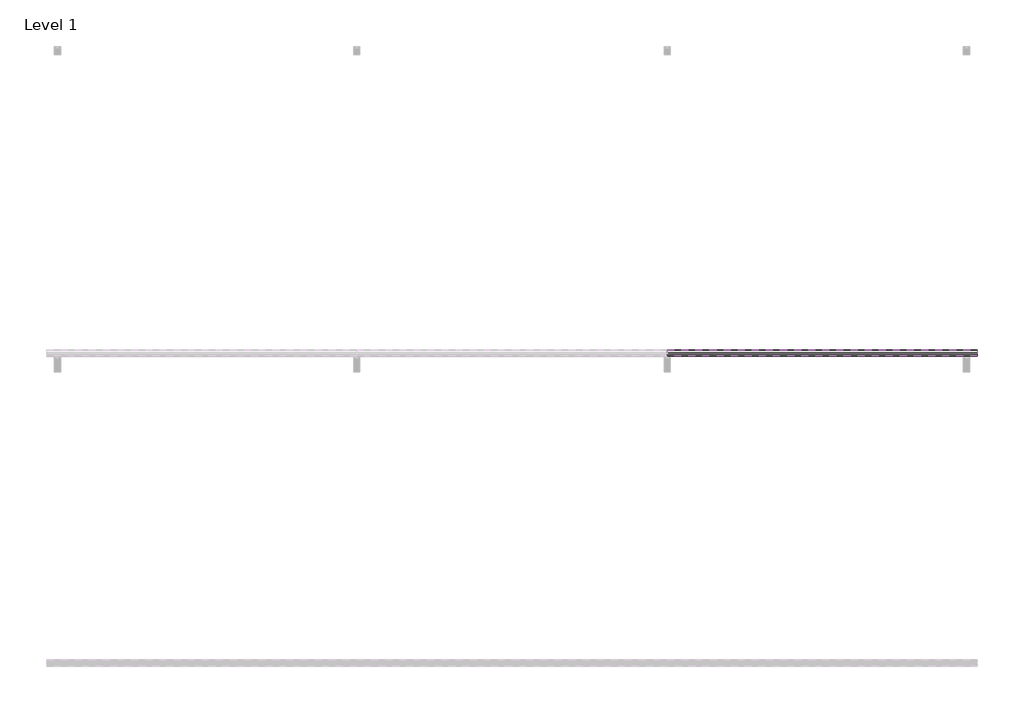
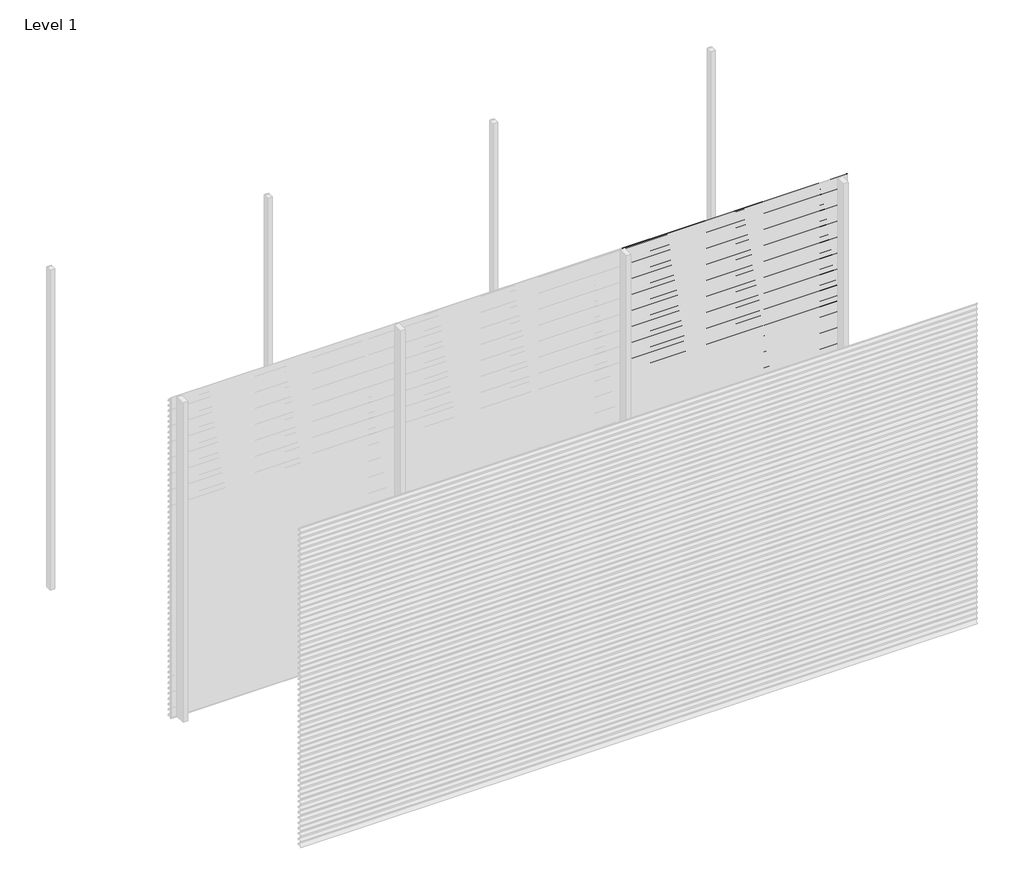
# One storey, part 16 of 38: 66 proxies.
"""IFC4 building model written with IfcOpenShell, lengths in millimetres."""

import ifcopenshell
import ifcopenshell.guid

model = None  # the IFC model being written
_history = None  # IfcOwnerHistory: only IFC2X3 demands one
_inside = {}  # id of a spatial element -> (the spatial element, [elements in it])
_under = {}  # id of a project, library or spatial element -> (it, [spatial elements below it])
_declared = {}  # id of a project -> (the project, [libraries it declares])
_typed = {}  # id of a type object -> (the type object, [elements of that type])
_made_of = {}  # id of a material, layer set ... -> (it, [elements and type objects made of it])


def new_model(schema):
    """Start an empty IFC model of exactly this schema.

    Asked for "IFC4X3", IfcOpenShell would pick the latest addendum, in which some entities
    have other attributes; the version numbers below select the first issue.
    IFC2X3 requires an IfcOwnerHistory on every rooted entity: one is made here for all.
    """
    global model, _history
    if schema == "IFC4X3":
        model = ifcopenshell.file(schema_version=(4, 3, 0, 0))
    else:
        model = ifcopenshell.file(schema=schema)
    _inside.clear()
    _under.clear()
    _declared.clear()
    _typed.clear()
    _made_of.clear()
    _history = None
    if model.schema == "IFC2X3":
        org = make("IfcOrganization", Name="unknown")
        user = make(
            "IfcPersonAndOrganization",
            ThePerson=make("IfcPerson", FamilyName="unknown"),
            TheOrganization=org,
        )
        app = make(
            "IfcApplication",
            ApplicationDeveloper=org,
            Version="unknown",
            ApplicationFullName="unknown",
            ApplicationIdentifier="unknown",
        )
        _history = make(
            "IfcOwnerHistory",
            OwningUser=user,
            OwningApplication=app,
            ChangeAction="ADDED",
            CreationDate=0,
        )
    return model


def make(cls, **values):
    """One entity of the class cls with the attributes given. An attribute that is None is left unset."""
    return model.create_entity(
        cls, **{name: value for name, value in values.items() if value is not None}
    )


def rooted(cls, **values):
    """An entity with a GlobalId (a new one), such as an element, a storey or a relation."""
    return make(cls, GlobalId=ifcopenshell.guid.new(), OwnerHistory=_history, **values)


def si_unit(unit_type, name, prefix=None):
    """IfcSIUnit, for example si_unit("LENGTHUNIT", "METRE", prefix="MILLI")."""
    return make("IfcSIUnit", UnitType=unit_type, Prefix=prefix, Name=name)


def assignment(units):
    """IfcUnitAssignment: the units of a project."""
    return None if units is None else make("IfcUnitAssignment", Units=units)


def point(xyz):
    """IfcCartesianPoint."""
    return None if xyz is None else make("IfcCartesianPoint", Coordinates=xyz)


def direction(xyz):
    """IfcDirection."""
    return None if xyz is None else make("IfcDirection", DirectionRatios=xyz)


def frame(location, z_axis=None, x_axis=None):
    """IfcAxis2Placement3D, a coordinate frame: its origin and axes. An axis left out is left unset."""
    return make(
        "IfcAxis2Placement3D",
        Location=point(location),
        Axis=direction(z_axis),
        RefDirection=direction(x_axis),
    )


def origin():
    """The frame at (0, 0, 0) with its axes left unset."""
    return frame((0.0, 0.0, 0.0))


def place(relative_to, where):
    """IfcLocalPlacement: puts the frame where relative to a parent placement (None: the world)."""
    return make(
        "IfcLocalPlacement", PlacementRelTo=relative_to, RelativePlacement=where
    )


def context(
    kind, dimensions, precision=None, world=None, true_north=None, identifier=None
):
    """IfcGeometricRepresentationContext, for example the 3D "Model" context."""
    return make(
        "IfcGeometricRepresentationContext",
        ContextIdentifier=identifier,
        ContextType=kind,
        CoordinateSpaceDimension=dimensions,
        Precision=precision,
        WorldCoordinateSystem=world,
        TrueNorth=true_north,
    )


def project(units=None, contexts=None):
    """IfcProject with its units and contexts."""
    return rooted(
        "IfcProject",
        Name="project",
        RepresentationContexts=contexts,
        UnitsInContext=assignment(units),
    )


def spatial(cls, under=None, at=None, **own):
    """A site, building, storey or space (cls), placed at a placement, below another one or the project."""
    s = rooted(cls, ObjectPlacement=at, **own)
    if under is not None:
        _under.setdefault(under.id(), (under, []))[1].append(s)
    return s


def polyline(points):
    """IfcPolyline through the points."""
    return make("IfcPolyline", Points=[point(p) for p in points])


def outline(outer, holes=None, kind="AREA"):
    """IfcArbitraryClosedProfileDef: a profile drawn as a closed curve; with holes, ...WithVoids."""
    if holes is None:
        return make("IfcArbitraryClosedProfileDef", ProfileType=kind, OuterCurve=outer)
    return make(
        "IfcArbitraryProfileDefWithVoids",
        ProfileType=kind,
        OuterCurve=outer,
        InnerCurves=holes,
    )


def extrude(swept, where, along, depth):
    """IfcExtrudedAreaSolid: the profile swept, set in the frame where, extruded along a direction by depth."""
    return make(
        "IfcExtrudedAreaSolid",
        SweptArea=swept,
        Position=where,
        ExtrudedDirection=direction(along),
        Depth=depth,
    )


def shape(context_of_items, identifier, shape_type, items):
    """IfcShapeRepresentation: the items that make up one representation, for example the "Body"."""
    return make(
        "IfcShapeRepresentation",
        ContextOfItems=context_of_items,
        RepresentationIdentifier=identifier,
        RepresentationType=shape_type,
        Items=items,
    )


def made_of(thing, what):
    """Note that an element or type object is made of a material, layer set ...; save() writes the relation."""
    if what is not None:
        _made_of.setdefault(what.id(), (what, []))[1].append(thing)
    return thing


def element(
    cls,
    number,
    at=None,
    inside=None,
    cuts=None,
    type_object=None,
    material=None,
    context=None,
    identifier="Body",
    shape_type=None,
    held_by="IfcProductDefinitionShape",
    body=None,
    shapes=None,
    **own,
):
    """One element of the class cls, such as IfcWall. Its Tag is "e" and its number.

    at: its placement. inside: the storey or other place that contains it. cuts: it is an
    opening in that element (IfcRelVoidsElement). A single representation is given by context,
    identifier, shape_type and body (its items); several are given by shapes. held_by: the class
    of the entity that holds the representations. save() writes the other relations.
    """
    e = rooted(cls, Tag="e%d" % number, ObjectPlacement=at, **own)
    if body is not None:
        shapes = [shape(context, identifier, shape_type, body)]
    if shapes is not None:
        e.Representation = make(held_by, Representations=shapes)
    if inside is not None:
        _inside.setdefault(inside.id(), (inside, []))[1].append(e)
    if cuts is not None:
        rooted(
            "IfcRelVoidsElement", RelatingBuildingElement=cuts, RelatedOpeningElement=e
        )
    if type_object is not None:
        _typed.setdefault(type_object.id(), (type_object, []))[1].append(e)
    return made_of(e, material)


def aggregate(whole, parts):
    """IfcRelAggregates: a whole, such as a stair, and the parts it consists of."""
    return rooted("IfcRelAggregates", RelatingObject=whole, RelatedObjects=parts)


def save(model, path):
    """Write the relations noted so far, then the file.

    IfcRelAggregates (storeys below a building ...), IfcRelContainedInSpatialStructure (elements
    in a storey), IfcRelDefinesByType, IfcRelAssociatesMaterial and IfcRelDeclares: one each for
    every whole, place, type object, material and project.
    """
    for whole, parts in _under.values():
        aggregate(whole, parts)
    for where, things in _inside.values():
        rooted(
            "IfcRelContainedInSpatialStructure",
            RelatedElements=things,
            RelatingStructure=where,
        )
    for kind, things in _typed.values():
        rooted("IfcRelDefinesByType", RelatedObjects=things, RelatingType=kind)
    for what, things in _made_of.values():
        rooted("IfcRelAssociatesMaterial", RelatedObjects=things, RelatingMaterial=what)
    for by, libraries in _declared.values():
        rooted("IfcRelDeclares", RelatingContext=by, RelatedDefinitions=libraries)
    model.write(path)


model = new_model("IFC4")

# Units and contexts
model_context = context("Model", 3, world=origin())
ifc_project = project(units=[si_unit("LENGTHUNIT", "METRE", prefix="MILLI")], contexts=[model_context])

# Site, building, storey
site = spatial("IfcSite", under=ifc_project)
building = spatial("IfcBuilding", under=site)
storey = spatial("IfcBuildingStorey", under=building, Name="Level 1", Elevation=0.0)

# Proxies
placement = place(None, origin())
element("IfcBuildingElementProxy", 1, Name="Wall Sweeps", at=placement, inside=storey, context=model_context, shape_type="SweptSolid", body=[
    extrude(outline(polyline([(-35996.75, 1050.0), (-35996.75, 1039.19656), (-35974.6057113, 1026.4115489), (-35957.0, 1009.0472005), (-35957.0, 994.0472005), (-35958.3, 995.0268207), (-35958.3, 1008.5034593), (-35969.4914725, 1019.541504), (-35994.2797376, 990.0), (-35995.9767671, 990.0), (-35970.4200307, 1020.4573323), (-35975.3999793, 1025.3690091), (-35998.0, 1038.4171371), (-35998.0, 1050.0), (-35996.75, 1050.0)])), frame((2000.0, 0.0, 0.0), z_axis=(1.0, 0.0, 0.0), x_axis=(0.0, 1.0, 0.0)), (0.0, 0.0, 1.0), 2000.0),
])
element("IfcBuildingElementProxy", 2, Name="Wall Sweeps", at=placement, inside=storey, context=model_context, shape_type="SweptSolid", body=[
    extrude(outline(polyline([(-35996.75, 1000.0), (-35996.75, 989.19656), (-35974.6057113, 976.4115489), (-35957.0, 959.0472005), (-35957.0, 944.0472005), (-35958.3, 945.0268207), (-35958.3, 958.5034593), (-35969.4914725, 969.541504), (-35994.2797376, 940.0), (-35995.9767671, 940.0), (-35970.4200307, 970.4573323), (-35975.3999793, 975.3690091), (-35998.0, 988.4171371), (-35998.0, 1000.0), (-35996.75, 1000.0)])), frame((2000.0, 0.0, 0.0), z_axis=(1.0, 0.0, 0.0), x_axis=(0.0, 1.0, 0.0)), (0.0, 0.0, 1.0), 2000.0),
])
element("IfcBuildingElementProxy", 3, Name="Wall Sweeps", at=placement, inside=storey, context=model_context, shape_type="SweptSolid", body=[
    extrude(outline(polyline([(-35996.75, 950.0), (-35996.75, 939.19656), (-35974.6057113, 926.4115489), (-35957.0, 909.0472005), (-35957.0, 894.0472005), (-35958.3, 895.0268207), (-35958.3, 908.5034593), (-35969.4914725, 919.541504), (-35994.2797376, 890.0), (-35995.9767671, 890.0), (-35970.4200307, 920.4573323), (-35975.3999793, 925.3690091), (-35998.0, 938.4171371), (-35998.0, 950.0), (-35996.75, 950.0)])), frame((2000.0, 0.0, 0.0), z_axis=(1.0, 0.0, 0.0), x_axis=(0.0, 1.0, 0.0)), (0.0, 0.0, 1.0), 2000.0),
])
element("IfcBuildingElementProxy", 4, Name="Wall Sweeps", at=placement, inside=storey, context=model_context, shape_type="SweptSolid", body=[
    extrude(outline(polyline([(-35996.75, 900.0), (-35996.75, 889.19656), (-35974.6057113, 876.4115489), (-35957.0, 859.0472005), (-35957.0, 844.0472005), (-35958.3, 845.0268207), (-35958.3, 858.5034593), (-35969.4914725, 869.541504), (-35994.2797376, 840.0), (-35995.9767671, 840.0), (-35970.4200307, 870.4573323), (-35975.3999793, 875.3690091), (-35998.0, 888.4171371), (-35998.0, 900.0), (-35996.75, 900.0)])), frame((2000.0, 0.0, 0.0), z_axis=(1.0, 0.0, 0.0), x_axis=(0.0, 1.0, 0.0)), (0.0, 0.0, 1.0), 2000.0),
])
element("IfcBuildingElementProxy", 5, Name="Wall Sweeps", at=placement, inside=storey, context=model_context, shape_type="SweptSolid", body=[
    extrude(outline(polyline([(-35996.75, 850.0), (-35996.75, 839.19656), (-35974.6057113, 826.4115489), (-35957.0, 809.0472005), (-35957.0, 794.0472005), (-35958.3, 795.0268207), (-35958.3, 808.5034593), (-35969.4914725, 819.541504), (-35994.2797376, 790.0), (-35995.9767671, 790.0), (-35970.4200307, 820.4573323), (-35975.3999793, 825.3690091), (-35998.0, 838.4171371), (-35998.0, 850.0), (-35996.75, 850.0)])), frame((2000.0, 0.0, 0.0), z_axis=(1.0, 0.0, 0.0), x_axis=(0.0, 1.0, 0.0)), (0.0, 0.0, 1.0), 2000.0),
])
element("IfcBuildingElementProxy", 6, Name="Wall Sweeps", at=placement, inside=storey, context=model_context, shape_type="SweptSolid", body=[
    extrude(outline(polyline([(-35996.75, 800.0), (-35996.75, 789.19656), (-35974.6057113, 776.4115489), (-35957.0, 759.0472005), (-35957.0, 744.0472005), (-35958.3, 745.0268207), (-35958.3, 758.5034593), (-35969.4914725, 769.541504), (-35994.2797376, 740.0), (-35995.9767671, 740.0), (-35970.4200307, 770.4573323), (-35975.3999793, 775.3690091), (-35998.0, 788.4171371), (-35998.0, 800.0), (-35996.75, 800.0)])), frame((2000.0, 0.0, 0.0), z_axis=(1.0, 0.0, 0.0), x_axis=(0.0, 1.0, 0.0)), (0.0, 0.0, 1.0), 2000.0),
])
element("IfcBuildingElementProxy", 7, Name="Wall Sweeps", at=placement, inside=storey, context=model_context, shape_type="SweptSolid", body=[
    extrude(outline(polyline([(-35996.75, 750.0), (-35996.75, 739.19656), (-35974.6057113, 726.4115489), (-35957.0, 709.0472005), (-35957.0, 694.0472005), (-35958.3, 695.0268207), (-35958.3, 708.5034593), (-35969.4914725, 719.541504), (-35994.2797376, 690.0), (-35995.9767671, 690.0), (-35970.4200307, 720.4573323), (-35975.3999793, 725.3690091), (-35998.0, 738.4171371), (-35998.0, 750.0), (-35996.75, 750.0)])), frame((2000.0, 0.0, 0.0), z_axis=(1.0, 0.0, 0.0), x_axis=(0.0, 1.0, 0.0)), (0.0, 0.0, 1.0), 2000.0),
])
element("IfcBuildingElementProxy", 8, Name="Wall Sweeps", at=placement, inside=storey, context=model_context, shape_type="SweptSolid", body=[
    extrude(outline(polyline([(-35996.75, 700.0), (-35996.75, 689.19656), (-35974.6057113, 676.4115489), (-35957.0, 659.0472005), (-35957.0, 644.0472005), (-35958.3, 645.0268207), (-35958.3, 658.5034593), (-35969.4914725, 669.541504), (-35994.2797376, 640.0), (-35995.9767671, 640.0), (-35970.4200307, 670.4573323), (-35975.3999793, 675.3690091), (-35998.0, 688.4171371), (-35998.0, 700.0), (-35996.75, 700.0)])), frame((2000.0, 0.0, 0.0), z_axis=(1.0, 0.0, 0.0), x_axis=(0.0, 1.0, 0.0)), (0.0, 0.0, 1.0), 2000.0),
])
element("IfcBuildingElementProxy", 9, Name="Wall Sweeps", at=placement, inside=storey, context=model_context, shape_type="SweptSolid", body=[
    extrude(outline(polyline([(-35996.75, 650.0), (-35996.75, 639.19656), (-35974.6057113, 626.4115489), (-35957.0, 609.0472005), (-35957.0, 594.0472005), (-35958.3, 595.0268207), (-35958.3, 608.5034593), (-35969.4914725, 619.541504), (-35994.2797376, 590.0), (-35995.9767671, 590.0), (-35970.4200307, 620.4573323), (-35975.3999793, 625.3690091), (-35998.0, 638.4171371), (-35998.0, 650.0), (-35996.75, 650.0)])), frame((2000.0, 0.0, 0.0), z_axis=(1.0, 0.0, 0.0), x_axis=(0.0, 1.0, 0.0)), (0.0, 0.0, 1.0), 2000.0),
])
element("IfcBuildingElementProxy", 10, Name="Wall Sweeps", at=placement, inside=storey, context=model_context, shape_type="SweptSolid", body=[
    extrude(outline(polyline([(-35996.75, 600.0), (-35996.75, 589.19656), (-35974.6057113, 576.4115489), (-35957.0, 559.0472005), (-35957.0, 544.0472005), (-35958.3, 545.0268207), (-35958.3, 558.5034593), (-35969.4914725, 569.541504), (-35994.2797376, 540.0), (-35995.9767671, 540.0), (-35970.4200307, 570.4573323), (-35975.3999793, 575.3690091), (-35998.0, 588.4171371), (-35998.0, 600.0), (-35996.75, 600.0)])), frame((2000.0, 0.0, 0.0), z_axis=(1.0, 0.0, 0.0), x_axis=(0.0, 1.0, 0.0)), (0.0, 0.0, 1.0), 2000.0),
])
element("IfcBuildingElementProxy", 11, Name="Wall Sweeps", at=placement, inside=storey, context=model_context, shape_type="SweptSolid", body=[
    extrude(outline(polyline([(-35996.75, 550.0), (-35996.75, 539.19656), (-35974.6057113, 526.4115489), (-35957.0, 509.0472005), (-35957.0, 494.0472005), (-35958.3, 495.0268207), (-35958.3, 508.5034593), (-35969.4914725, 519.541504), (-35994.2797376, 490.0), (-35995.9767671, 490.0), (-35970.4200307, 520.4573323), (-35975.3999793, 525.3690091), (-35998.0, 538.4171371), (-35998.0, 550.0), (-35996.75, 550.0)])), frame((2000.0, 0.0, 0.0), z_axis=(1.0, 0.0, 0.0), x_axis=(0.0, 1.0, 0.0)), (0.0, 0.0, 1.0), 2000.0),
])
element("IfcBuildingElementProxy", 12, Name="Wall Sweeps", at=placement, inside=storey, context=model_context, shape_type="SweptSolid", body=[
    extrude(outline(polyline([(-35996.75, 500.0), (-35996.75, 489.19656), (-35974.6057113, 476.4115489), (-35957.0, 459.0472005), (-35957.0, 444.0472005), (-35958.3, 445.0268207), (-35958.3, 458.5034593), (-35969.4914725, 469.541504), (-35994.2797376, 440.0), (-35995.9767671, 440.0), (-35970.4200307, 470.4573323), (-35975.3999793, 475.3690091), (-35998.0, 488.4171371), (-35998.0, 500.0), (-35996.75, 500.0)])), frame((2000.0, 0.0, 0.0), z_axis=(1.0, 0.0, 0.0), x_axis=(0.0, 1.0, 0.0)), (0.0, 0.0, 1.0), 2000.0),
])
element("IfcBuildingElementProxy", 13, Name="Wall Sweeps", at=placement, inside=storey, context=model_context, shape_type="SweptSolid", body=[
    extrude(outline(polyline([(-35996.75, 450.0), (-35996.75, 439.19656), (-35974.6057113, 426.4115489), (-35957.0, 409.0472005), (-35957.0, 394.0472005), (-35958.3, 395.0268207), (-35958.3, 408.5034593), (-35969.4914725, 419.541504), (-35994.2797376, 390.0), (-35995.9767671, 390.0), (-35970.4200307, 420.4573323), (-35975.3999793, 425.3690091), (-35998.0, 438.4171371), (-35998.0, 450.0), (-35996.75, 450.0)])), frame((2000.0, 0.0, 0.0), z_axis=(1.0, 0.0, 0.0), x_axis=(0.0, 1.0, 0.0)), (0.0, 0.0, 1.0), 2000.0),
])
element("IfcBuildingElementProxy", 14, Name="Wall Sweeps", at=placement, inside=storey, context=model_context, shape_type="SweptSolid", body=[
    extrude(outline(polyline([(-35996.75, 400.0), (-35996.75, 389.19656), (-35974.6057113, 376.4115489), (-35957.0, 359.0472005), (-35957.0, 344.0472005), (-35958.3, 345.0268207), (-35958.3, 358.5034593), (-35969.4914725, 369.541504), (-35994.2797376, 340.0), (-35995.9767671, 340.0), (-35970.4200307, 370.4573323), (-35975.3999793, 375.3690091), (-35998.0, 388.4171371), (-35998.0, 400.0), (-35996.75, 400.0)])), frame((2000.0, 0.0, 0.0), z_axis=(1.0, 0.0, 0.0), x_axis=(0.0, 1.0, 0.0)), (0.0, 0.0, 1.0), 2000.0),
])
element("IfcBuildingElementProxy", 15, Name="Wall Sweeps", at=placement, inside=storey, context=model_context, shape_type="SweptSolid", body=[
    extrude(outline(polyline([(-35996.75, 350.0), (-35996.75, 339.19656), (-35974.6057113, 326.4115489), (-35957.0, 309.0472005), (-35957.0, 294.0472005), (-35958.3, 295.0268207), (-35958.3, 308.5034593), (-35969.4914725, 319.541504), (-35994.2797376, 290.0), (-35995.9767671, 290.0), (-35970.4200307, 320.4573323), (-35975.3999793, 325.3690091), (-35998.0, 338.4171371), (-35998.0, 350.0), (-35996.75, 350.0)])), frame((2000.0, 0.0, 0.0), z_axis=(1.0, 0.0, 0.0), x_axis=(0.0, 1.0, 0.0)), (0.0, 0.0, 1.0), 2000.0),
])
element("IfcBuildingElementProxy", 16, Name="Wall Sweeps", at=placement, inside=storey, context=model_context, shape_type="SweptSolid", body=[
    extrude(outline(polyline([(-35996.75, 300.0), (-35996.75, 289.19656), (-35974.6057113, 276.4115489), (-35957.0, 259.0472005), (-35957.0, 244.0472005), (-35958.3, 245.0268207), (-35958.3, 258.5034593), (-35969.4914725, 269.541504), (-35994.2797376, 240.0), (-35995.9767671, 240.0), (-35970.4200307, 270.4573323), (-35975.3999793, 275.3690091), (-35998.0, 288.4171371), (-35998.0, 300.0), (-35996.75, 300.0)])), frame((2000.0, 0.0, 0.0), z_axis=(1.0, 0.0, 0.0), x_axis=(0.0, 1.0, 0.0)), (0.0, 0.0, 1.0), 2000.0),
])
element("IfcBuildingElementProxy", 17, Name="Wall Sweeps", at=placement, inside=storey, context=model_context, shape_type="SweptSolid", body=[
    extrude(outline(polyline([(-35996.75, 250.0), (-35996.75, 239.19656), (-35974.6057113, 226.4115489), (-35957.0, 209.0472005), (-35957.0, 194.0472005), (-35958.3, 195.0268207), (-35958.3, 208.5034593), (-35969.4914725, 219.541504), (-35994.2797376, 190.0), (-35995.9767671, 190.0), (-35970.4200307, 220.4573323), (-35975.3999793, 225.3690091), (-35998.0, 238.4171371), (-35998.0, 250.0), (-35996.75, 250.0)])), frame((2000.0, 0.0, 0.0), z_axis=(1.0, 0.0, 0.0), x_axis=(0.0, 1.0, 0.0)), (0.0, 0.0, 1.0), 2000.0),
])
element("IfcBuildingElementProxy", 18, Name="Wall Sweeps", at=placement, inside=storey, context=model_context, shape_type="SweptSolid", body=[
    extrude(outline(polyline([(-35996.75, 200.0), (-35996.75, 189.19656), (-35974.6057113, 176.4115489), (-35957.0, 159.0472005), (-35957.0, 144.0472005), (-35958.3, 145.0268207), (-35958.3, 158.5034593), (-35969.4914725, 169.541504), (-35994.2797376, 140.0), (-35995.9767671, 140.0), (-35970.4200307, 170.4573323), (-35975.3999793, 175.3690091), (-35998.0, 188.4171371), (-35998.0, 200.0), (-35996.75, 200.0)])), frame((2000.0, 0.0, 0.0), z_axis=(1.0, 0.0, 0.0), x_axis=(0.0, 1.0, 0.0)), (0.0, 0.0, 1.0), 2000.0),
])
element("IfcBuildingElementProxy", 19, Name="Wall Sweeps", at=placement, inside=storey, context=model_context, shape_type="SweptSolid", body=[
    extrude(outline(polyline([(-35996.75, 150.0), (-35996.75, 139.19656), (-35974.6057113, 126.4115489), (-35957.0, 109.0472005), (-35957.0, 94.0472005), (-35958.3, 95.0268207), (-35958.3, 108.5034593), (-35969.4914725, 119.541504), (-35994.2797376, 90.0), (-35995.9767671, 90.0), (-35970.4200307, 120.4573323), (-35975.3999793, 125.3690091), (-35998.0, 138.4171371), (-35998.0, 150.0), (-35996.75, 150.0)])), frame((2000.0, 0.0, 0.0), z_axis=(1.0, 0.0, 0.0), x_axis=(0.0, 1.0, 0.0)), (0.0, 0.0, 1.0), 2000.0),
])
element("IfcBuildingElementProxy", 20, Name="Wall Sweeps", at=placement, inside=storey, context=model_context, shape_type="SweptSolid", body=[
    extrude(outline(polyline([(-35996.75, 100.0), (-35996.75, 89.19656), (-35974.6057113, 76.4115489), (-35957.0, 59.0472005), (-35957.0, 44.0472005), (-35958.3, 45.0268207), (-35958.3, 58.5034593), (-35969.4914725, 69.541504), (-35994.2797376, 40.0), (-35995.9767671, 40.0), (-35970.4200307, 70.4573323), (-35975.3999793, 75.3690091), (-35998.0, 88.4171371), (-35998.0, 100.0), (-35996.75, 100.0)])), frame((2000.0, 0.0, 0.0), z_axis=(1.0, 0.0, 0.0), x_axis=(0.0, 1.0, 0.0)), (0.0, 0.0, 1.0), 2000.0),
])
element("IfcBuildingElementProxy", 21, Name="Wall Sweeps", at=placement, inside=storey, context=model_context, shape_type="SweptSolid", body=[
    extrude(outline(polyline([(-35996.75, 50.0), (-35996.75, 39.19656), (-35974.6057113, 26.4115489), (-35957.0, 9.0472005), (-35957.0, -5.9527995), (-35958.3, -4.9731793), (-35958.3, 8.5034593), (-35969.4914725, 19.541504), (-35994.2797376, -10.0), (-35995.9767671, -10.0), (-35970.4200307, 20.4573323), (-35975.3999793, 25.3690091), (-35998.0, 38.4171371), (-35998.0, 50.0), (-35996.75, 50.0)])), frame((2000.0, 0.0, 0.0), z_axis=(1.0, 0.0, 0.0), x_axis=(0.0, 1.0, 0.0)), (0.0, 0.0, 1.0), 2000.0),
])
element("IfcBuildingElementProxy", 22, Name="Wall Sweeps", at=placement, inside=storey, context=model_context, shape_type="SweptSolid", body=[
    extrude(outline(polyline([(-35996.75, 3000.0), (-35996.75, 2989.19656), (-35974.6057113, 2976.4115489), (-35957.0, 2959.0472005), (-35957.0, 2944.0472005), (-35958.3, 2945.0268207), (-35958.3, 2958.5034593), (-35969.4914725, 2969.541504), (-35994.2797376, 2940.0), (-35995.9767671, 2940.0), (-35970.4200307, 2970.4573323), (-35975.3999793, 2975.3690091), (-35998.0, 2988.4171371), (-35998.0, 3000.0), (-35996.75, 3000.0)])), frame((4000.0, 0.0, 0.0), z_axis=(1.0, 0.0, 0.0), x_axis=(0.0, 1.0, 0.0)), (0.0, 0.0, 1.0), 2000.0),
])
element("IfcBuildingElementProxy", 23, Name="Wall Sweeps", at=placement, inside=storey, context=model_context, shape_type="SweptSolid", body=[
    extrude(outline(polyline([(-35996.75, 2950.0), (-35996.75, 2939.19656), (-35974.6057113, 2926.4115489), (-35957.0, 2909.0472005), (-35957.0, 2894.0472005), (-35958.3, 2895.0268207), (-35958.3, 2908.5034593), (-35969.4914725, 2919.541504), (-35994.2797376, 2890.0), (-35995.9767671, 2890.0), (-35970.4200307, 2920.4573323), (-35975.3999793, 2925.3690091), (-35998.0, 2938.4171371), (-35998.0, 2950.0), (-35996.75, 2950.0)])), frame((4000.0, 0.0, 0.0), z_axis=(1.0, 0.0, 0.0), x_axis=(0.0, 1.0, 0.0)), (0.0, 0.0, 1.0), 2000.0),
])
element("IfcBuildingElementProxy", 24, Name="Wall Sweeps", at=placement, inside=storey, context=model_context, shape_type="SweptSolid", body=[
    extrude(outline(polyline([(-35996.75, 2900.0), (-35996.75, 2889.19656), (-35974.6057113, 2876.4115489), (-35957.0, 2859.0472005), (-35957.0, 2844.0472005), (-35958.3, 2845.0268207), (-35958.3, 2858.5034593), (-35969.4914725, 2869.541504), (-35994.2797376, 2840.0), (-35995.9767671, 2840.0), (-35970.4200307, 2870.4573323), (-35975.3999793, 2875.3690091), (-35998.0, 2888.4171371), (-35998.0, 2900.0), (-35996.75, 2900.0)])), frame((4000.0, 0.0, 0.0), z_axis=(1.0, 0.0, 0.0), x_axis=(0.0, 1.0, 0.0)), (0.0, 0.0, 1.0), 2000.0),
])
element("IfcBuildingElementProxy", 25, Name="Wall Sweeps", at=placement, inside=storey, context=model_context, shape_type="SweptSolid", body=[
    extrude(outline(polyline([(-35996.75, 2850.0), (-35996.75, 2839.19656), (-35974.6057113, 2826.4115489), (-35957.0, 2809.0472005), (-35957.0, 2794.0472005), (-35958.3, 2795.0268207), (-35958.3, 2808.5034593), (-35969.4914725, 2819.541504), (-35994.2797376, 2790.0), (-35995.9767671, 2790.0), (-35970.4200307, 2820.4573323), (-35975.3999793, 2825.3690091), (-35998.0, 2838.4171371), (-35998.0, 2850.0), (-35996.75, 2850.0)])), frame((4000.0, 0.0, 0.0), z_axis=(1.0, 0.0, 0.0), x_axis=(0.0, 1.0, 0.0)), (0.0, 0.0, 1.0), 2000.0),
])
element("IfcBuildingElementProxy", 26, Name="Wall Sweeps", at=placement, inside=storey, context=model_context, shape_type="SweptSolid", body=[
    extrude(outline(polyline([(-35996.75, 2800.0), (-35996.75, 2789.19656), (-35974.6057113, 2776.4115489), (-35957.0, 2759.0472005), (-35957.0, 2744.0472005), (-35958.3, 2745.0268207), (-35958.3, 2758.5034593), (-35969.4914725, 2769.541504), (-35994.2797376, 2740.0), (-35995.9767671, 2740.0), (-35970.4200307, 2770.4573323), (-35975.3999793, 2775.3690091), (-35998.0, 2788.4171371), (-35998.0, 2800.0), (-35996.75, 2800.0)])), frame((4000.0, 0.0, 0.0), z_axis=(1.0, 0.0, 0.0), x_axis=(0.0, 1.0, 0.0)), (0.0, 0.0, 1.0), 2000.0),
])
element("IfcBuildingElementProxy", 27, Name="Wall Sweeps", at=placement, inside=storey, context=model_context, shape_type="SweptSolid", body=[
    extrude(outline(polyline([(-35996.75, 2750.0), (-35996.75, 2739.19656), (-35974.6057113, 2726.4115489), (-35957.0, 2709.0472005), (-35957.0, 2694.0472005), (-35958.3, 2695.0268207), (-35958.3, 2708.5034593), (-35969.4914725, 2719.541504), (-35994.2797376, 2690.0), (-35995.9767671, 2690.0), (-35970.4200307, 2720.4573323), (-35975.3999793, 2725.3690091), (-35998.0, 2738.4171371), (-35998.0, 2750.0), (-35996.75, 2750.0)])), frame((4000.0, 0.0, 0.0), z_axis=(1.0, 0.0, 0.0), x_axis=(0.0, 1.0, 0.0)), (0.0, 0.0, 1.0), 2000.0),
])
element("IfcBuildingElementProxy", 28, Name="Wall Sweeps", at=placement, inside=storey, context=model_context, shape_type="SweptSolid", body=[
    extrude(outline(polyline([(-35996.75, 2700.0), (-35996.75, 2689.19656), (-35974.6057113, 2676.4115489), (-35957.0, 2659.0472005), (-35957.0, 2644.0472005), (-35958.3, 2645.0268207), (-35958.3, 2658.5034593), (-35969.4914725, 2669.541504), (-35994.2797376, 2640.0), (-35995.9767671, 2640.0), (-35970.4200307, 2670.4573323), (-35975.3999793, 2675.3690091), (-35998.0, 2688.4171371), (-35998.0, 2700.0), (-35996.75, 2700.0)])), frame((4000.0, 0.0, 0.0), z_axis=(1.0, 0.0, 0.0), x_axis=(0.0, 1.0, 0.0)), (0.0, 0.0, 1.0), 2000.0),
])
element("IfcBuildingElementProxy", 29, Name="Wall Sweeps", at=placement, inside=storey, context=model_context, shape_type="SweptSolid", body=[
    extrude(outline(polyline([(-35996.75, 2650.0), (-35996.75, 2639.19656), (-35974.6057113, 2626.4115489), (-35957.0, 2609.0472005), (-35957.0, 2594.0472005), (-35958.3, 2595.0268207), (-35958.3, 2608.5034593), (-35969.4914725, 2619.541504), (-35994.2797376, 2590.0), (-35995.9767671, 2590.0), (-35970.4200307, 2620.4573323), (-35975.3999793, 2625.3690091), (-35998.0, 2638.4171371), (-35998.0, 2650.0), (-35996.75, 2650.0)])), frame((4000.0, 0.0, 0.0), z_axis=(1.0, 0.0, 0.0), x_axis=(0.0, 1.0, 0.0)), (0.0, 0.0, 1.0), 2000.0),
])
element("IfcBuildingElementProxy", 30, Name="Wall Sweeps", at=placement, inside=storey, context=model_context, shape_type="SweptSolid", body=[
    extrude(outline(polyline([(-35996.75, 2600.0), (-35996.75, 2589.19656), (-35974.6057113, 2576.4115489), (-35957.0, 2559.0472005), (-35957.0, 2544.0472005), (-35958.3, 2545.0268207), (-35958.3, 2558.5034593), (-35969.4914725, 2569.541504), (-35994.2797376, 2540.0), (-35995.9767671, 2540.0), (-35970.4200307, 2570.4573323), (-35975.3999793, 2575.3690091), (-35998.0, 2588.4171371), (-35998.0, 2600.0), (-35996.75, 2600.0)])), frame((4000.0, 0.0, 0.0), z_axis=(1.0, 0.0, 0.0), x_axis=(0.0, 1.0, 0.0)), (0.0, 0.0, 1.0), 2000.0),
])
element("IfcBuildingElementProxy", 31, Name="Wall Sweeps", at=placement, inside=storey, context=model_context, shape_type="SweptSolid", body=[
    extrude(outline(polyline([(-35996.75, 2550.0), (-35996.75, 2539.19656), (-35974.6057113, 2526.4115489), (-35957.0, 2509.0472005), (-35957.0, 2494.0472005), (-35958.3, 2495.0268207), (-35958.3, 2508.5034593), (-35969.4914725, 2519.541504), (-35994.2797376, 2490.0), (-35995.9767671, 2490.0), (-35970.4200307, 2520.4573323), (-35975.3999793, 2525.3690091), (-35998.0, 2538.4171371), (-35998.0, 2550.0), (-35996.75, 2550.0)])), frame((4000.0, 0.0, 0.0), z_axis=(1.0, 0.0, 0.0), x_axis=(0.0, 1.0, 0.0)), (0.0, 0.0, 1.0), 2000.0),
])
element("IfcBuildingElementProxy", 32, Name="Wall Sweeps", at=placement, inside=storey, context=model_context, shape_type="SweptSolid", body=[
    extrude(outline(polyline([(-35996.75, 2500.0), (-35996.75, 2489.19656), (-35974.6057113, 2476.4115489), (-35957.0, 2459.0472005), (-35957.0, 2444.0472005), (-35958.3, 2445.0268207), (-35958.3, 2458.5034593), (-35969.4914725, 2469.541504), (-35994.2797376, 2440.0), (-35995.9767671, 2440.0), (-35970.4200307, 2470.4573323), (-35975.3999793, 2475.3690091), (-35998.0, 2488.4171371), (-35998.0, 2500.0), (-35996.75, 2500.0)])), frame((4000.0, 0.0, 0.0), z_axis=(1.0, 0.0, 0.0), x_axis=(0.0, 1.0, 0.0)), (0.0, 0.0, 1.0), 2000.0),
])
element("IfcBuildingElementProxy", 33, Name="Wall Sweeps", at=placement, inside=storey, context=model_context, shape_type="SweptSolid", body=[
    extrude(outline(polyline([(-35996.75, 2450.0), (-35996.75, 2439.19656), (-35974.6057113, 2426.4115489), (-35957.0, 2409.0472005), (-35957.0, 2394.0472005), (-35958.3, 2395.0268207), (-35958.3, 2408.5034593), (-35969.4914725, 2419.541504), (-35994.2797376, 2390.0), (-35995.9767671, 2390.0), (-35970.4200307, 2420.4573323), (-35975.3999793, 2425.3690091), (-35998.0, 2438.4171371), (-35998.0, 2450.0), (-35996.75, 2450.0)])), frame((4000.0, 0.0, 0.0), z_axis=(1.0, 0.0, 0.0), x_axis=(0.0, 1.0, 0.0)), (0.0, 0.0, 1.0), 2000.0),
])
element("IfcBuildingElementProxy", 34, Name="Wall Sweeps", at=placement, inside=storey, context=model_context, shape_type="SweptSolid", body=[
    extrude(outline(polyline([(-35996.75, 2400.0), (-35996.75, 2389.19656), (-35974.6057113, 2376.4115489), (-35957.0, 2359.0472005), (-35957.0, 2344.0472005), (-35958.3, 2345.0268207), (-35958.3, 2358.5034593), (-35969.4914725, 2369.541504), (-35994.2797376, 2340.0), (-35995.9767671, 2340.0), (-35970.4200307, 2370.4573323), (-35975.3999793, 2375.3690091), (-35998.0, 2388.4171371), (-35998.0, 2400.0), (-35996.75, 2400.0)])), frame((4000.0, 0.0, 0.0), z_axis=(1.0, 0.0, 0.0), x_axis=(0.0, 1.0, 0.0)), (0.0, 0.0, 1.0), 2000.0),
])
element("IfcBuildingElementProxy", 35, Name="Wall Sweeps", at=placement, inside=storey, context=model_context, shape_type="SweptSolid", body=[
    extrude(outline(polyline([(-35996.75, 2350.0), (-35996.75, 2339.19656), (-35974.6057113, 2326.4115489), (-35957.0, 2309.0472005), (-35957.0, 2294.0472005), (-35958.3, 2295.0268207), (-35958.3, 2308.5034593), (-35969.4914725, 2319.541504), (-35994.2797376, 2290.0), (-35995.9767671, 2290.0), (-35970.4200307, 2320.4573323), (-35975.3999793, 2325.3690091), (-35998.0, 2338.4171371), (-35998.0, 2350.0), (-35996.75, 2350.0)])), frame((4000.0, 0.0, 0.0), z_axis=(1.0, 0.0, 0.0), x_axis=(0.0, 1.0, 0.0)), (0.0, 0.0, 1.0), 2000.0),
])
element("IfcBuildingElementProxy", 36, Name="Wall Sweeps", at=placement, inside=storey, context=model_context, shape_type="SweptSolid", body=[
    extrude(outline(polyline([(-35996.75, 2300.0), (-35996.75, 2289.19656), (-35974.6057113, 2276.4115489), (-35957.0, 2259.0472005), (-35957.0, 2244.0472005), (-35958.3, 2245.0268207), (-35958.3, 2258.5034593), (-35969.4914725, 2269.541504), (-35994.2797376, 2240.0), (-35995.9767671, 2240.0), (-35970.4200307, 2270.4573323), (-35975.3999793, 2275.3690091), (-35998.0, 2288.4171371), (-35998.0, 2300.0), (-35996.75, 2300.0)])), frame((4000.0, 0.0, 0.0), z_axis=(1.0, 0.0, 0.0), x_axis=(0.0, 1.0, 0.0)), (0.0, 0.0, 1.0), 2000.0),
])
element("IfcBuildingElementProxy", 37, Name="Wall Sweeps", at=placement, inside=storey, context=model_context, shape_type="SweptSolid", body=[
    extrude(outline(polyline([(-35996.75, 2250.0), (-35996.75, 2239.19656), (-35974.6057113, 2226.4115489), (-35957.0, 2209.0472005), (-35957.0, 2194.0472005), (-35958.3, 2195.0268207), (-35958.3, 2208.5034593), (-35969.4914725, 2219.541504), (-35994.2797376, 2190.0), (-35995.9767671, 2190.0), (-35970.4200307, 2220.4573323), (-35975.3999793, 2225.3690091), (-35998.0, 2238.4171371), (-35998.0, 2250.0), (-35996.75, 2250.0)])), frame((4000.0, 0.0, 0.0), z_axis=(1.0, 0.0, 0.0), x_axis=(0.0, 1.0, 0.0)), (0.0, 0.0, 1.0), 2000.0),
])
element("IfcBuildingElementProxy", 38, Name="Wall Sweeps", at=placement, inside=storey, context=model_context, shape_type="SweptSolid", body=[
    extrude(outline(polyline([(-35996.75, 2200.0), (-35996.75, 2189.19656), (-35974.6057113, 2176.4115489), (-35957.0, 2159.0472005), (-35957.0, 2144.0472005), (-35958.3, 2145.0268207), (-35958.3, 2158.5034593), (-35969.4914725, 2169.541504), (-35994.2797376, 2140.0), (-35995.9767671, 2140.0), (-35970.4200307, 2170.4573323), (-35975.3999793, 2175.3690091), (-35998.0, 2188.4171371), (-35998.0, 2200.0), (-35996.75, 2200.0)])), frame((4000.0, 0.0, 0.0), z_axis=(1.0, 0.0, 0.0), x_axis=(0.0, 1.0, 0.0)), (0.0, 0.0, 1.0), 2000.0),
])
element("IfcBuildingElementProxy", 39, Name="Wall Sweeps", at=placement, inside=storey, context=model_context, shape_type="SweptSolid", body=[
    extrude(outline(polyline([(-35996.75, 2150.0), (-35996.75, 2139.19656), (-35974.6057113, 2126.4115489), (-35957.0, 2109.0472005), (-35957.0, 2094.0472005), (-35958.3, 2095.0268207), (-35958.3, 2108.5034593), (-35969.4914725, 2119.541504), (-35994.2797376, 2090.0), (-35995.9767671, 2090.0), (-35970.4200307, 2120.4573323), (-35975.3999793, 2125.3690091), (-35998.0, 2138.4171371), (-35998.0, 2150.0), (-35996.75, 2150.0)])), frame((4000.0, 0.0, 0.0), z_axis=(1.0, 0.0, 0.0), x_axis=(0.0, 1.0, 0.0)), (0.0, 0.0, 1.0), 2000.0),
])
element("IfcBuildingElementProxy", 40, Name="Wall Sweeps", at=placement, inside=storey, context=model_context, shape_type="SweptSolid", body=[
    extrude(outline(polyline([(-35996.75, 2100.0), (-35996.75, 2089.19656), (-35974.6057113, 2076.4115489), (-35957.0, 2059.0472005), (-35957.0, 2044.0472005), (-35958.3, 2045.0268207), (-35958.3, 2058.5034593), (-35969.4914725, 2069.541504), (-35994.2797376, 2040.0), (-35995.9767671, 2040.0), (-35970.4200307, 2070.4573323), (-35975.3999793, 2075.3690091), (-35998.0, 2088.4171371), (-35998.0, 2100.0), (-35996.75, 2100.0)])), frame((4000.0, 0.0, 0.0), z_axis=(1.0, 0.0, 0.0), x_axis=(0.0, 1.0, 0.0)), (0.0, 0.0, 1.0), 2000.0),
])
element("IfcBuildingElementProxy", 41, Name="Wall Sweeps", at=placement, inside=storey, context=model_context, shape_type="SweptSolid", body=[
    extrude(outline(polyline([(-35996.75, 2050.0), (-35996.75, 2039.19656), (-35974.6057113, 2026.4115489), (-35957.0, 2009.0472005), (-35957.0, 1994.0472005), (-35958.3, 1995.0268207), (-35958.3, 2008.5034593), (-35969.4914725, 2019.541504), (-35994.2797376, 1990.0), (-35995.9767671, 1990.0), (-35970.4200307, 2020.4573323), (-35975.3999793, 2025.3690091), (-35998.0, 2038.4171371), (-35998.0, 2050.0), (-35996.75, 2050.0)])), frame((4000.0, 0.0, 0.0), z_axis=(1.0, 0.0, 0.0), x_axis=(0.0, 1.0, 0.0)), (0.0, 0.0, 1.0), 2000.0),
])
element("IfcBuildingElementProxy", 42, Name="Wall Sweeps", at=placement, inside=storey, context=model_context, shape_type="SweptSolid", body=[
    extrude(outline(polyline([(-35996.75, 2000.0), (-35996.75, 1989.19656), (-35974.6057113, 1976.4115489), (-35957.0, 1959.0472005), (-35957.0, 1944.0472005), (-35958.3, 1945.0268207), (-35958.3, 1958.5034593), (-35969.4914725, 1969.541504), (-35994.2797376, 1940.0), (-35995.9767671, 1940.0), (-35970.4200307, 1970.4573323), (-35975.3999793, 1975.3690091), (-35998.0, 1988.4171371), (-35998.0, 2000.0), (-35996.75, 2000.0)])), frame((4000.0, 0.0, 0.0), z_axis=(1.0, 0.0, 0.0), x_axis=(0.0, 1.0, 0.0)), (0.0, 0.0, 1.0), 2000.0),
])
element("IfcBuildingElementProxy", 43, Name="Wall Sweeps", at=placement, inside=storey, context=model_context, shape_type="SweptSolid", body=[
    extrude(outline(polyline([(-35996.75, 1950.0), (-35996.75, 1939.19656), (-35974.6057113, 1926.4115489), (-35957.0, 1909.0472005), (-35957.0, 1894.0472005), (-35958.3, 1895.0268207), (-35958.3, 1908.5034593), (-35969.4914725, 1919.541504), (-35994.2797376, 1890.0), (-35995.9767671, 1890.0), (-35970.4200307, 1920.4573323), (-35975.3999793, 1925.3690091), (-35998.0, 1938.4171371), (-35998.0, 1950.0), (-35996.75, 1950.0)])), frame((4000.0, 0.0, 0.0), z_axis=(1.0, 0.0, 0.0), x_axis=(0.0, 1.0, 0.0)), (0.0, 0.0, 1.0), 2000.0),
])
element("IfcBuildingElementProxy", 44, Name="Wall Sweeps", at=placement, inside=storey, context=model_context, shape_type="SweptSolid", body=[
    extrude(outline(polyline([(-35996.75, 1900.0), (-35996.75, 1889.19656), (-35974.6057113, 1876.4115489), (-35957.0, 1859.0472005), (-35957.0, 1844.0472005), (-35958.3, 1845.0268207), (-35958.3, 1858.5034593), (-35969.4914725, 1869.541504), (-35994.2797376, 1840.0), (-35995.9767671, 1840.0), (-35970.4200307, 1870.4573323), (-35975.3999793, 1875.3690091), (-35998.0, 1888.4171371), (-35998.0, 1900.0), (-35996.75, 1900.0)])), frame((4000.0, 0.0, 0.0), z_axis=(1.0, 0.0, 0.0), x_axis=(0.0, 1.0, 0.0)), (0.0, 0.0, 1.0), 2000.0),
])
element("IfcBuildingElementProxy", 45, Name="Wall Sweeps", at=placement, inside=storey, context=model_context, shape_type="SweptSolid", body=[
    extrude(outline(polyline([(-35996.75, 1850.0), (-35996.75, 1839.19656), (-35974.6057113, 1826.4115489), (-35957.0, 1809.0472005), (-35957.0, 1794.0472005), (-35958.3, 1795.0268207), (-35958.3, 1808.5034593), (-35969.4914725, 1819.541504), (-35994.2797376, 1790.0), (-35995.9767671, 1790.0), (-35970.4200307, 1820.4573323), (-35975.3999793, 1825.3690091), (-35998.0, 1838.4171371), (-35998.0, 1850.0), (-35996.75, 1850.0)])), frame((4000.0, 0.0, 0.0), z_axis=(1.0, 0.0, 0.0), x_axis=(0.0, 1.0, 0.0)), (0.0, 0.0, 1.0), 2000.0),
])
element("IfcBuildingElementProxy", 46, Name="Wall Sweeps", at=placement, inside=storey, context=model_context, shape_type="SweptSolid", body=[
    extrude(outline(polyline([(-35996.75, 1800.0), (-35996.75, 1789.19656), (-35974.6057113, 1776.4115489), (-35957.0, 1759.0472005), (-35957.0, 1744.0472005), (-35958.3, 1745.0268207), (-35958.3, 1758.5034593), (-35969.4914725, 1769.541504), (-35994.2797376, 1740.0), (-35995.9767671, 1740.0), (-35970.4200307, 1770.4573323), (-35975.3999793, 1775.3690091), (-35998.0, 1788.4171371), (-35998.0, 1800.0), (-35996.75, 1800.0)])), frame((4000.0, 0.0, 0.0), z_axis=(1.0, 0.0, 0.0), x_axis=(0.0, 1.0, 0.0)), (0.0, 0.0, 1.0), 2000.0),
])
element("IfcBuildingElementProxy", 47, Name="Wall Sweeps", at=placement, inside=storey, context=model_context, shape_type="SweptSolid", body=[
    extrude(outline(polyline([(-35996.75, 1750.0), (-35996.75, 1739.19656), (-35974.6057113, 1726.4115489), (-35957.0, 1709.0472005), (-35957.0, 1694.0472005), (-35958.3, 1695.0268207), (-35958.3, 1708.5034593), (-35969.4914725, 1719.541504), (-35994.2797376, 1690.0), (-35995.9767671, 1690.0), (-35970.4200307, 1720.4573323), (-35975.3999793, 1725.3690091), (-35998.0, 1738.4171371), (-35998.0, 1750.0), (-35996.75, 1750.0)])), frame((4000.0, 0.0, 0.0), z_axis=(1.0, 0.0, 0.0), x_axis=(0.0, 1.0, 0.0)), (0.0, 0.0, 1.0), 2000.0),
])
element("IfcBuildingElementProxy", 48, Name="Wall Sweeps", at=placement, inside=storey, context=model_context, shape_type="SweptSolid", body=[
    extrude(outline(polyline([(-35996.75, 1700.0), (-35996.75, 1689.19656), (-35974.6057113, 1676.4115489), (-35957.0, 1659.0472005), (-35957.0, 1644.0472005), (-35958.3, 1645.0268207), (-35958.3, 1658.5034593), (-35969.4914725, 1669.541504), (-35994.2797376, 1640.0), (-35995.9767671, 1640.0), (-35970.4200307, 1670.4573323), (-35975.3999793, 1675.3690091), (-35998.0, 1688.4171371), (-35998.0, 1700.0), (-35996.75, 1700.0)])), frame((4000.0, 0.0, 0.0), z_axis=(1.0, 0.0, 0.0), x_axis=(0.0, 1.0, 0.0)), (0.0, 0.0, 1.0), 2000.0),
])
element("IfcBuildingElementProxy", 49, Name="Wall Sweeps", at=placement, inside=storey, context=model_context, shape_type="SweptSolid", body=[
    extrude(outline(polyline([(-35996.75, 1650.0), (-35996.75, 1639.19656), (-35974.6057113, 1626.4115489), (-35957.0, 1609.0472005), (-35957.0, 1594.0472005), (-35958.3, 1595.0268207), (-35958.3, 1608.5034593), (-35969.4914725, 1619.541504), (-35994.2797376, 1590.0), (-35995.9767671, 1590.0), (-35970.4200307, 1620.4573323), (-35975.3999793, 1625.3690091), (-35998.0, 1638.4171371), (-35998.0, 1650.0), (-35996.75, 1650.0)])), frame((4000.0, 0.0, 0.0), z_axis=(1.0, 0.0, 0.0), x_axis=(0.0, 1.0, 0.0)), (0.0, 0.0, 1.0), 2000.0),
])
element("IfcBuildingElementProxy", 50, Name="Wall Sweeps", at=placement, inside=storey, context=model_context, shape_type="SweptSolid", body=[
    extrude(outline(polyline([(-35996.75, 1600.0), (-35996.75, 1589.19656), (-35974.6057113, 1576.4115489), (-35957.0, 1559.0472005), (-35957.0, 1544.0472005), (-35958.3, 1545.0268207), (-35958.3, 1558.5034593), (-35969.4914725, 1569.541504), (-35994.2797376, 1540.0), (-35995.9767671, 1540.0), (-35970.4200307, 1570.4573323), (-35975.3999793, 1575.3690091), (-35998.0, 1588.4171371), (-35998.0, 1600.0), (-35996.75, 1600.0)])), frame((4000.0, 0.0, 0.0), z_axis=(1.0, 0.0, 0.0), x_axis=(0.0, 1.0, 0.0)), (0.0, 0.0, 1.0), 2000.0),
])
element("IfcBuildingElementProxy", 51, Name="Wall Sweeps", at=placement, inside=storey, context=model_context, shape_type="SweptSolid", body=[
    extrude(outline(polyline([(-35996.75, 1550.0), (-35996.75, 1539.19656), (-35974.6057113, 1526.4115489), (-35957.0, 1509.0472005), (-35957.0, 1494.0472005), (-35958.3, 1495.0268207), (-35958.3, 1508.5034593), (-35969.4914725, 1519.541504), (-35994.2797376, 1490.0), (-35995.9767671, 1490.0), (-35970.4200307, 1520.4573323), (-35975.3999793, 1525.3690091), (-35998.0, 1538.4171371), (-35998.0, 1550.0), (-35996.75, 1550.0)])), frame((4000.0, 0.0, 0.0), z_axis=(1.0, 0.0, 0.0), x_axis=(0.0, 1.0, 0.0)), (0.0, 0.0, 1.0), 2000.0),
])
element("IfcBuildingElementProxy", 52, Name="Wall Sweeps", at=placement, inside=storey, context=model_context, shape_type="SweptSolid", body=[
    extrude(outline(polyline([(-35996.75, 1500.0), (-35996.75, 1489.19656), (-35974.6057113, 1476.4115489), (-35957.0, 1459.0472005), (-35957.0, 1444.0472005), (-35958.3, 1445.0268207), (-35958.3, 1458.5034593), (-35969.4914725, 1469.541504), (-35994.2797376, 1440.0), (-35995.9767671, 1440.0), (-35970.4200307, 1470.4573323), (-35975.3999793, 1475.3690091), (-35998.0, 1488.4171371), (-35998.0, 1500.0), (-35996.75, 1500.0)])), frame((4000.0, 0.0, 0.0), z_axis=(1.0, 0.0, 0.0), x_axis=(0.0, 1.0, 0.0)), (0.0, 0.0, 1.0), 2000.0),
])
element("IfcBuildingElementProxy", 53, Name="Wall Sweeps", at=placement, inside=storey, context=model_context, shape_type="SweptSolid", body=[
    extrude(outline(polyline([(-35996.75, 1450.0), (-35996.75, 1439.19656), (-35974.6057113, 1426.4115489), (-35957.0, 1409.0472005), (-35957.0, 1394.0472005), (-35958.3, 1395.0268207), (-35958.3, 1408.5034593), (-35969.4914725, 1419.541504), (-35994.2797376, 1390.0), (-35995.9767671, 1390.0), (-35970.4200307, 1420.4573323), (-35975.3999793, 1425.3690091), (-35998.0, 1438.4171371), (-35998.0, 1450.0), (-35996.75, 1450.0)])), frame((4000.0, 0.0, 0.0), z_axis=(1.0, 0.0, 0.0), x_axis=(0.0, 1.0, 0.0)), (0.0, 0.0, 1.0), 2000.0),
])
element("IfcBuildingElementProxy", 54, Name="Wall Sweeps", at=placement, inside=storey, context=model_context, shape_type="SweptSolid", body=[
    extrude(outline(polyline([(-35996.75, 1400.0), (-35996.75, 1389.19656), (-35974.6057113, 1376.4115489), (-35957.0, 1359.0472005), (-35957.0, 1344.0472005), (-35958.3, 1345.0268207), (-35958.3, 1358.5034593), (-35969.4914725, 1369.541504), (-35994.2797376, 1340.0), (-35995.9767671, 1340.0), (-35970.4200307, 1370.4573323), (-35975.3999793, 1375.3690091), (-35998.0, 1388.4171371), (-35998.0, 1400.0), (-35996.75, 1400.0)])), frame((4000.0, 0.0, 0.0), z_axis=(1.0, 0.0, 0.0), x_axis=(0.0, 1.0, 0.0)), (0.0, 0.0, 1.0), 2000.0),
])
element("IfcBuildingElementProxy", 55, Name="Wall Sweeps", at=placement, inside=storey, context=model_context, shape_type="SweptSolid", body=[
    extrude(outline(polyline([(-35996.75, 1350.0), (-35996.75, 1339.19656), (-35974.6057113, 1326.4115489), (-35957.0, 1309.0472005), (-35957.0, 1294.0472005), (-35958.3, 1295.0268207), (-35958.3, 1308.5034593), (-35969.4914725, 1319.541504), (-35994.2797376, 1290.0), (-35995.9767671, 1290.0), (-35970.4200307, 1320.4573323), (-35975.3999793, 1325.3690091), (-35998.0, 1338.4171371), (-35998.0, 1350.0), (-35996.75, 1350.0)])), frame((4000.0, 0.0, 0.0), z_axis=(1.0, 0.0, 0.0), x_axis=(0.0, 1.0, 0.0)), (0.0, 0.0, 1.0), 2000.0),
])
element("IfcBuildingElementProxy", 56, Name="Wall Sweeps", at=placement, inside=storey, context=model_context, shape_type="SweptSolid", body=[
    extrude(outline(polyline([(-35996.75, 1300.0), (-35996.75, 1289.19656), (-35974.6057113, 1276.4115489), (-35957.0, 1259.0472005), (-35957.0, 1244.0472005), (-35958.3, 1245.0268207), (-35958.3, 1258.5034593), (-35969.4914725, 1269.541504), (-35994.2797376, 1240.0), (-35995.9767671, 1240.0), (-35970.4200307, 1270.4573323), (-35975.3999793, 1275.3690091), (-35998.0, 1288.4171371), (-35998.0, 1300.0), (-35996.75, 1300.0)])), frame((4000.0, 0.0, 0.0), z_axis=(1.0, 0.0, 0.0), x_axis=(0.0, 1.0, 0.0)), (0.0, 0.0, 1.0), 2000.0),
])
element("IfcBuildingElementProxy", 57, Name="Wall Sweeps", at=placement, inside=storey, context=model_context, shape_type="SweptSolid", body=[
    extrude(outline(polyline([(-35996.75, 1250.0), (-35996.75, 1239.19656), (-35974.6057113, 1226.4115489), (-35957.0, 1209.0472005), (-35957.0, 1194.0472005), (-35958.3, 1195.0268207), (-35958.3, 1208.5034593), (-35969.4914725, 1219.541504), (-35994.2797376, 1190.0), (-35995.9767671, 1190.0), (-35970.4200307, 1220.4573323), (-35975.3999793, 1225.3690091), (-35998.0, 1238.4171371), (-35998.0, 1250.0), (-35996.75, 1250.0)])), frame((4000.0, 0.0, 0.0), z_axis=(1.0, 0.0, 0.0), x_axis=(0.0, 1.0, 0.0)), (0.0, 0.0, 1.0), 2000.0),
])
element("IfcBuildingElementProxy", 58, Name="Wall Sweeps", at=placement, inside=storey, context=model_context, shape_type="SweptSolid", body=[
    extrude(outline(polyline([(-35996.75, 1200.0), (-35996.75, 1189.19656), (-35974.6057113, 1176.4115489), (-35957.0, 1159.0472005), (-35957.0, 1144.0472005), (-35958.3, 1145.0268207), (-35958.3, 1158.5034593), (-35969.4914725, 1169.541504), (-35994.2797376, 1140.0), (-35995.9767671, 1140.0), (-35970.4200307, 1170.4573323), (-35975.3999793, 1175.3690091), (-35998.0, 1188.4171371), (-35998.0, 1200.0), (-35996.75, 1200.0)])), frame((4000.0, 0.0, 0.0), z_axis=(1.0, 0.0, 0.0), x_axis=(0.0, 1.0, 0.0)), (0.0, 0.0, 1.0), 2000.0),
])
element("IfcBuildingElementProxy", 59, Name="Wall Sweeps", at=placement, inside=storey, context=model_context, shape_type="SweptSolid", body=[
    extrude(outline(polyline([(-35996.75, 1150.0), (-35996.75, 1139.19656), (-35974.6057113, 1126.4115489), (-35957.0, 1109.0472005), (-35957.0, 1094.0472005), (-35958.3, 1095.0268207), (-35958.3, 1108.5034593), (-35969.4914725, 1119.541504), (-35994.2797376, 1090.0), (-35995.9767671, 1090.0), (-35970.4200307, 1120.4573323), (-35975.3999793, 1125.3690091), (-35998.0, 1138.4171371), (-35998.0, 1150.0), (-35996.75, 1150.0)])), frame((4000.0, 0.0, 0.0), z_axis=(1.0, 0.0, 0.0), x_axis=(0.0, 1.0, 0.0)), (0.0, 0.0, 1.0), 2000.0),
])
element("IfcBuildingElementProxy", 60, Name="Wall Sweeps", at=placement, inside=storey, context=model_context, shape_type="SweptSolid", body=[
    extrude(outline(polyline([(-35996.75, 1100.0), (-35996.75, 1089.19656), (-35974.6057113, 1076.4115489), (-35957.0, 1059.0472005), (-35957.0, 1044.0472005), (-35958.3, 1045.0268207), (-35958.3, 1058.5034593), (-35969.4914725, 1069.541504), (-35994.2797376, 1040.0), (-35995.9767671, 1040.0), (-35970.4200307, 1070.4573323), (-35975.3999793, 1075.3690091), (-35998.0, 1088.4171371), (-35998.0, 1100.0), (-35996.75, 1100.0)])), frame((4000.0, 0.0, 0.0), z_axis=(1.0, 0.0, 0.0), x_axis=(0.0, 1.0, 0.0)), (0.0, 0.0, 1.0), 2000.0),
])
element("IfcBuildingElementProxy", 61, Name="Wall Sweeps", at=placement, inside=storey, context=model_context, shape_type="SweptSolid", body=[
    extrude(outline(polyline([(-35996.75, 1050.0), (-35996.75, 1039.19656), (-35974.6057113, 1026.4115489), (-35957.0, 1009.0472005), (-35957.0, 994.0472005), (-35958.3, 995.0268207), (-35958.3, 1008.5034593), (-35969.4914725, 1019.541504), (-35994.2797376, 990.0), (-35995.9767671, 990.0), (-35970.4200307, 1020.4573323), (-35975.3999793, 1025.3690091), (-35998.0, 1038.4171371), (-35998.0, 1050.0), (-35996.75, 1050.0)])), frame((4000.0, 0.0, 0.0), z_axis=(1.0, 0.0, 0.0), x_axis=(0.0, 1.0, 0.0)), (0.0, 0.0, 1.0), 2000.0),
])
element("IfcBuildingElementProxy", 62, Name="Wall Sweeps", at=placement, inside=storey, context=model_context, shape_type="SweptSolid", body=[
    extrude(outline(polyline([(-35996.75, 1000.0), (-35996.75, 989.19656), (-35974.6057113, 976.4115489), (-35957.0, 959.0472005), (-35957.0, 944.0472005), (-35958.3, 945.0268207), (-35958.3, 958.5034593), (-35969.4914725, 969.541504), (-35994.2797376, 940.0), (-35995.9767671, 940.0), (-35970.4200307, 970.4573323), (-35975.3999793, 975.3690091), (-35998.0, 988.4171371), (-35998.0, 1000.0), (-35996.75, 1000.0)])), frame((4000.0, 0.0, 0.0), z_axis=(1.0, 0.0, 0.0), x_axis=(0.0, 1.0, 0.0)), (0.0, 0.0, 1.0), 2000.0),
])
element("IfcBuildingElementProxy", 63, Name="Wall Sweeps", at=placement, inside=storey, context=model_context, shape_type="SweptSolid", body=[
    extrude(outline(polyline([(-35996.75, 950.0), (-35996.75, 939.19656), (-35974.6057113, 926.4115489), (-35957.0, 909.0472005), (-35957.0, 894.0472005), (-35958.3, 895.0268207), (-35958.3, 908.5034593), (-35969.4914725, 919.541504), (-35994.2797376, 890.0), (-35995.9767671, 890.0), (-35970.4200307, 920.4573323), (-35975.3999793, 925.3690091), (-35998.0, 938.4171371), (-35998.0, 950.0), (-35996.75, 950.0)])), frame((4000.0, 0.0, 0.0), z_axis=(1.0, 0.0, 0.0), x_axis=(0.0, 1.0, 0.0)), (0.0, 0.0, 1.0), 2000.0),
])
element("IfcBuildingElementProxy", 64, Name="Wall Sweeps", at=placement, inside=storey, context=model_context, shape_type="SweptSolid", body=[
    extrude(outline(polyline([(-35996.75, 900.0), (-35996.75, 889.19656), (-35974.6057113, 876.4115489), (-35957.0, 859.0472005), (-35957.0, 844.0472005), (-35958.3, 845.0268207), (-35958.3, 858.5034593), (-35969.4914725, 869.541504), (-35994.2797376, 840.0), (-35995.9767671, 840.0), (-35970.4200307, 870.4573323), (-35975.3999793, 875.3690091), (-35998.0, 888.4171371), (-35998.0, 900.0), (-35996.75, 900.0)])), frame((4000.0, 0.0, 0.0), z_axis=(1.0, 0.0, 0.0), x_axis=(0.0, 1.0, 0.0)), (0.0, 0.0, 1.0), 2000.0),
])
element("IfcBuildingElementProxy", 65, Name="Wall Sweeps", at=placement, inside=storey, context=model_context, shape_type="SweptSolid", body=[
    extrude(outline(polyline([(-35996.75, 850.0), (-35996.75, 839.19656), (-35974.6057113, 826.4115489), (-35957.0, 809.0472005), (-35957.0, 794.0472005), (-35958.3, 795.0268207), (-35958.3, 808.5034593), (-35969.4914725, 819.541504), (-35994.2797376, 790.0), (-35995.9767671, 790.0), (-35970.4200307, 820.4573323), (-35975.3999793, 825.3690091), (-35998.0, 838.4171371), (-35998.0, 850.0), (-35996.75, 850.0)])), frame((4000.0, 0.0, 0.0), z_axis=(1.0, 0.0, 0.0), x_axis=(0.0, 1.0, 0.0)), (0.0, 0.0, 1.0), 2000.0),
])
element("IfcBuildingElementProxy", 66, Name="Wall Sweeps", at=placement, inside=storey, context=model_context, shape_type="SweptSolid", body=[
    extrude(outline(polyline([(-35996.75, 800.0), (-35996.75, 789.19656), (-35974.6057113, 776.4115489), (-35957.0, 759.0472005), (-35957.0, 744.0472005), (-35958.3, 745.0268207), (-35958.3, 758.5034593), (-35969.4914725, 769.541504), (-35994.2797376, 740.0), (-35995.9767671, 740.0), (-35970.4200307, 770.4573323), (-35975.3999793, 775.3690091), (-35998.0, 788.4171371), (-35998.0, 800.0), (-35996.75, 800.0)])), frame((4000.0, 0.0, 0.0), z_axis=(1.0, 0.0, 0.0), x_axis=(0.0, 1.0, 0.0)), (0.0, 0.0, 1.0), 2000.0),
])

save(model, "model.ifc")
